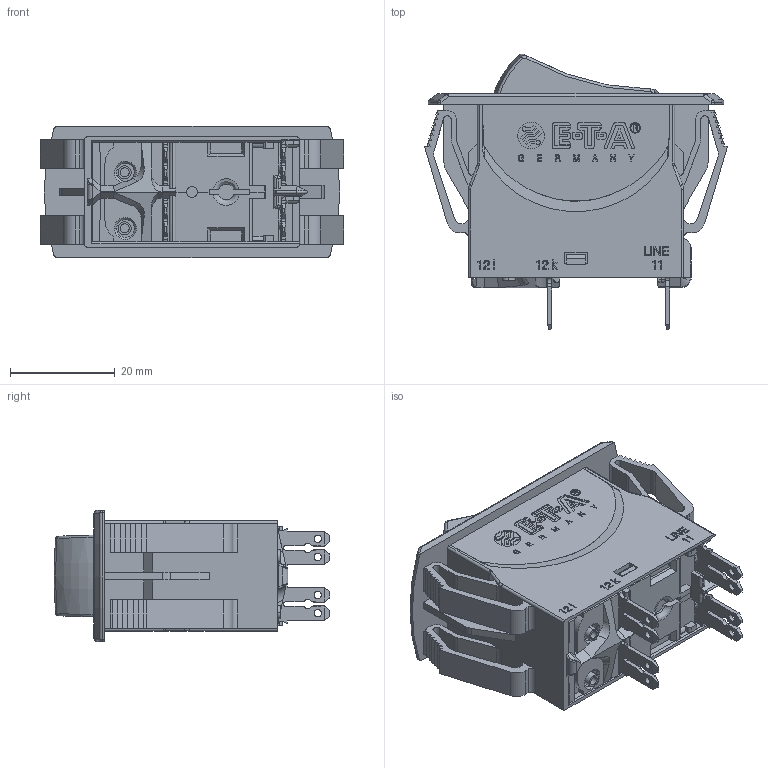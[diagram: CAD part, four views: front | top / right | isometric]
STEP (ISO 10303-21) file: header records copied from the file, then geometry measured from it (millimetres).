
FILE_DESCRIPTION((''),'2;1');
FILE_NAME('DUMMY-3120-N321-P7','2019-08-07T10:49:14',('wschmidt'),(''),'CREO PARAMETRIC BY PTC INC, 2017260','CREO PARAMETRIC BY PTC INC, 2017260','');
FILE_SCHEMA(('AUTOMOTIVE_DESIGN { 1 0 10303 214 1 1 1 1 }'));
Products named in the file (1): DUMMY-3120-N321-P7
Bounding box: 57.8 x 52.56 x 25 mm (x, y, z)
Volume: 30858.6 mm3; surface area: 18677.5 mm2
Topology: 1 solids, 2 shells, 1801 faces, 4952 edges, 3223 vertices
Faces by surface type: plane 1076, extrusion 306, cylinder 288, bspline 69, torus 37, cone 13, sphere 12
Entity records: 64767 total; most frequent: CARTESIAN_POINT 20192, ORIENTED_EDGE 9902, DIRECTION 7621, EDGE_CURVE 4951, VECTOR 3775, LINE 3469, VERTEX_POINT 3223, EDGE_LOOP 1924
